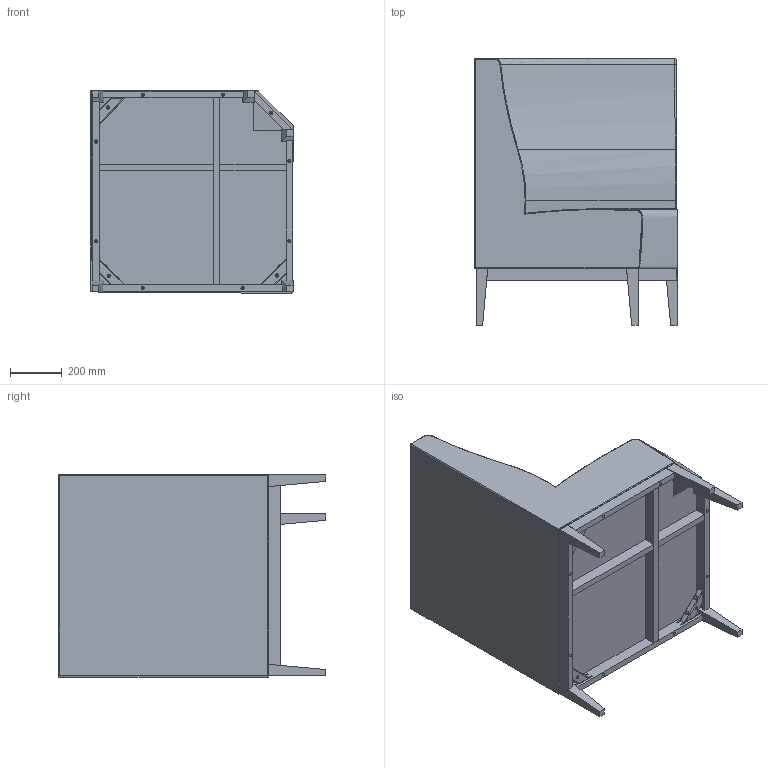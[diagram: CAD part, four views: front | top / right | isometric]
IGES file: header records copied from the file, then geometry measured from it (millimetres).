
Start section: SolidWorks IGES file using analytic representation for surfaces
Global section: file name: D:\DESENHOSSOLIDWORKS\Desenhos Tecnicos\Fabrica3\MESAS\DESENHOS DA SARA\Sofás\Bases\70Q.B5\Blues_70Q.B5.IGS; native system: SolidWorks 2017; preprocessor: SolidWorks 2017; author: Mateus; date: 170717.183803; units: millimetre
Bounding box: 780.63 x 1030.12 x 781.42 mm (x, y, z)
Surface area: 4453509.5 mm2 (no closed solid volume)
Topology: 0 solids, 0 shells, 602 faces, 8908 edges, 10390 vertices
Faces by surface type: bspline 354, revolution 248
